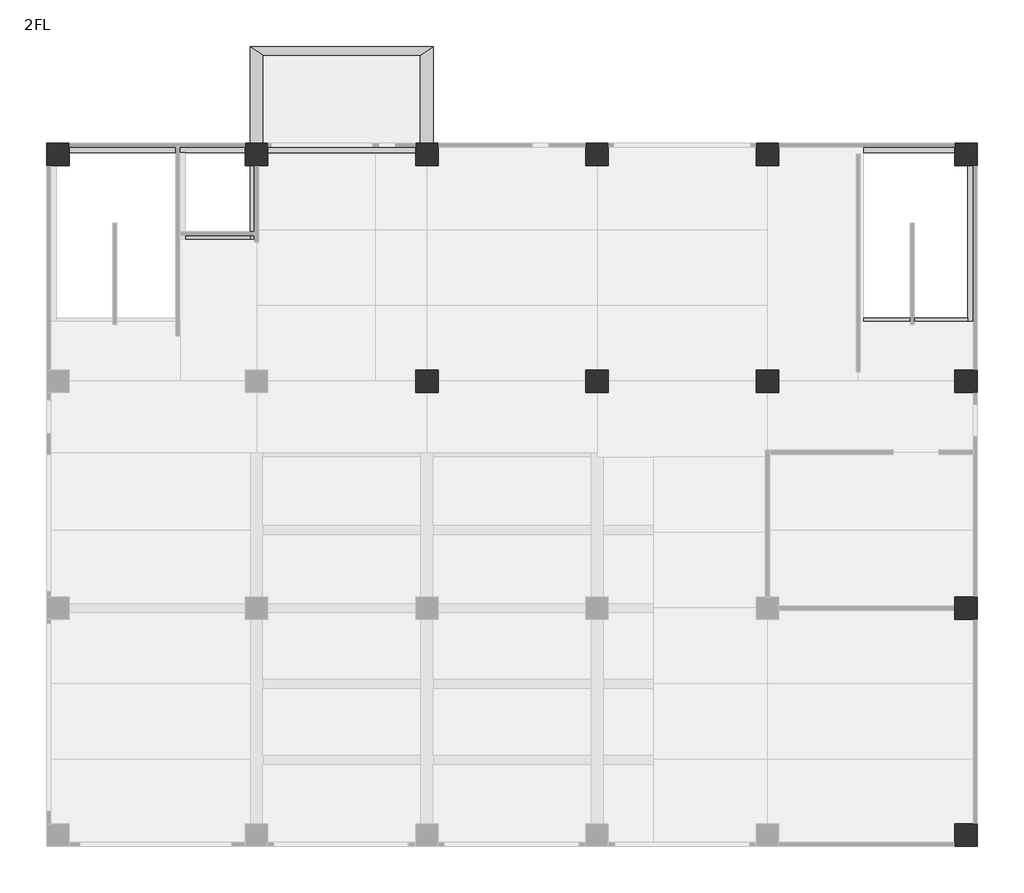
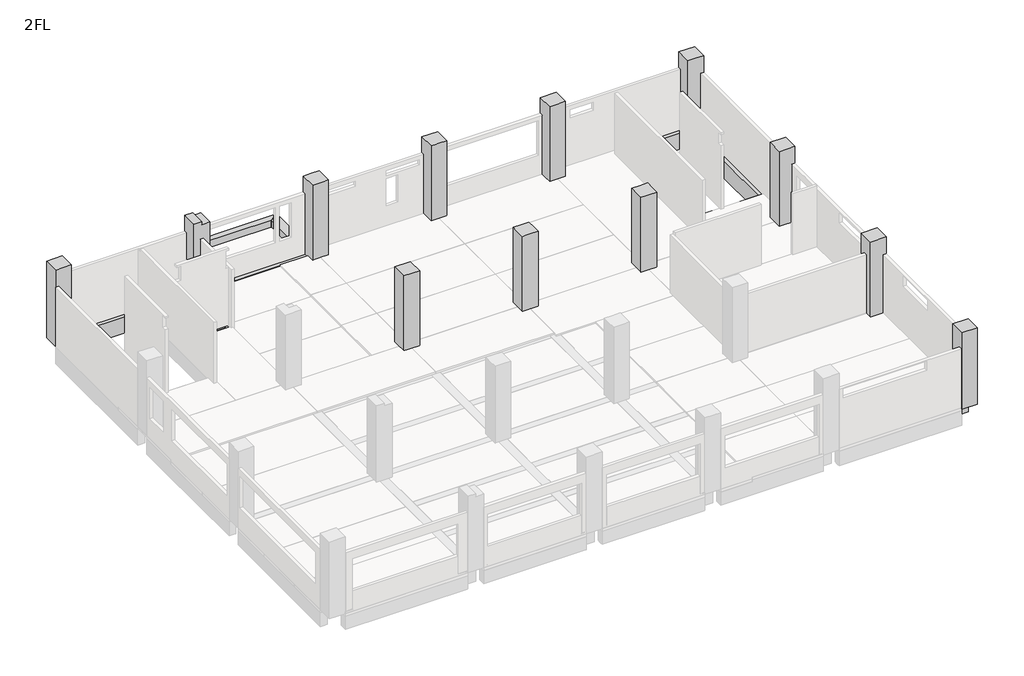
# One storey, part 4 of 4: 28 beams, 12 columns.
"""IFC4 building model written with IfcOpenShell, lengths in millimetres."""

from ifc_helpers import new_model, si_unit, origin, place, context, project, spatial, faceted_brep, element, save

model = new_model("IFC4")

# Units and contexts
model_context = context("Model", 3, world=origin())
ifc_project = project(units=[si_unit("LENGTHUNIT", "METRE", prefix="MILLI")], contexts=[model_context])

# Site, building, storey
site = spatial("IfcSite", under=ifc_project)
building = spatial("IfcBuilding", under=site)
storey = spatial("IfcBuildingStorey", under=building, Name="2FL", Elevation=4100.0)

# Beams
placement = place(None, origin())
element("IfcBeam", 1, ObjectType="RC_B : 2G1", at=placement, inside=storey, context=model_context, shape_type="Brep", body=[
    faceted_brep([(6600.0, 24400.0, 4000.0), (6600.0, 24400.0, 3150.0), (400.0, 24400.0, 3150.0), (400.0, 24400.0, 4000.0), (6600.0, 24250.0, 3150.0), (6600.0, 24050.0, 3150.0), (4294.0, 24050.0, 3150.0), (4144.0, 24050.0, 3150.0), (400.0, 24050.0, 3150.0), (400.0, 24250.0, 3150.0), (6600.0, 24050.0, 4000.0), (4494.0, 24050.0, 4000.0), (4144.0, 24050.0, 4000.0), (400.0, 24050.0, 4000.0), (6600.0, 24250.0, 4000.0), (400.0, 24250.0, 4000.0)], [[[0, 1, 2, 3]], [[1, 4, 5, 6, 7, 8, 9, 2]], [[5, 10, 11, 12, 13, 8, 7, 6]], [[10, 14, 0, 3, 15, 13, 12, 11]], [[1, 0, 14, 10, 5, 4]], [[3, 2, 9, 8, 13, 15]]]),
])
element("IfcBeam", 2, ObjectType="RC_B : 2G1", at=placement, inside=storey, context=model_context, shape_type="Brep", body=[
    faceted_brep([(7000.0, 24400.0, 3150.0), (7000.0, 24400.0, 3250.0), (7000.0, 24400.0, 4000.0), (7400.0, 24400.0, 4000.0), (12600.0, 24400.0, 4000.0), (12600.0, 24400.0, 3150.0), (7225.0, 24400.0, 3150.0), (7000.0, 24050.0, 3150.0), (12600.0, 24050.0, 3150.0), (7225.0, 24050.0, 3150.0), (7000.0, 24050.0, 4000.0), (12600.0, 24050.0, 4000.0), (12600.0, 24250.0, 4000.0)], [[[0, 1, 2, 3, 4, 5, 6]], [[7, 0, 6, 5, 8, 9]], [[10, 7, 9, 8, 11]], [[2, 10, 11, 12, 4, 3]], [[5, 4, 12, 11, 8]], [[2, 1, 0, 7, 10]]]),
])
element("IfcBeam", 3, ObjectType="RC_B : 2G1", at=placement, inside=storey, context=model_context, shape_type="Brep", body=[
    faceted_brep([(18600.0, 24400.0, 3940.0), (18600.0, 24400.0, 3150.0), (13400.0, 24400.0, 3150.0), (13400.0, 24400.0, 3940.0), (18600.0, 24250.0, 3150.0), (18600.0, 24050.0, 3150.0), (13400.0, 24050.0, 3150.0), (13400.0, 24250.0, 3150.0), (18600.0, 24050.0, 3940.0), (13400.0, 24050.0, 3940.0)], [[[0, 1, 2, 3]], [[1, 4, 5, 6, 7, 2]], [[5, 8, 9, 6]], [[5, 4, 1, 0, 8]], [[8, 0, 3, 9]], [[3, 2, 7, 6, 9]]]),
])
element("IfcBeam", 4, ObjectType="RC_B : 2G1", at=placement, inside=storey, context=model_context, shape_type="Brep", body=[
    faceted_brep([(24600.0, 24400.0, 3150.0), (19400.0, 24400.0, 3150.0), (19400.0, 24400.0, 3940.0), (24600.0, 24400.0, 3940.0), (24600.0, 24250.0, 3150.0), (24600.0, 24050.0, 3150.0), (19400.0, 24050.0, 3150.0), (19400.0, 24250.0, 3150.0), (24600.0, 24050.0, 3940.0), (19400.0, 24050.0, 3940.0)], [[[0, 1, 2, 3]], [[0, 4, 5, 6, 7, 1]], [[6, 5, 8, 9]], [[5, 4, 0, 3, 8]], [[1, 7, 6, 9, 2]], [[3, 2, 9, 8]]]),
])
element("IfcBeam", 5, ObjectType="RC_B : 2G1", at=placement, inside=storey, context=model_context, shape_type="Brep", body=[
    faceted_brep([(31600.0, 24400.0, 4000.0), (31600.0, 24400.0, 3150.0), (25400.0, 24400.0, 3150.0), (25400.0, 24400.0, 3940.0), (28374.0, 24400.0, 3940.0), (28374.0, 24400.0, 4000.0), (31600.0, 24250.0, 3150.0), (31600.0, 24050.0, 3150.0), (28275.0, 24050.0, 3150.0), (28275.0, 24250.0, 3150.0), (28275.0, 24325.0, 3150.0), (28125.0, 24325.0, 3150.0), (28125.0, 24250.0, 3150.0), (28125.0, 24050.0, 3150.0), (25400.0, 24050.0, 3150.0), (31600.0, 24050.0, 4000.0), (28374.0, 24050.0, 4000.0), (28374.0, 24050.0, 3940.0), (28024.0, 24050.0, 3940.0), (25400.0, 24050.0, 3940.0), (28125.0, 24050.0, 3250.0), (28275.0, 24050.0, 3250.0), (31600.0, 24250.0, 4000.0), (28374.0, 24250.0, 4000.0), (28125.0, 24325.0, 3250.0), (28275.0, 24325.0, 3250.0)], [[[0, 1, 2, 3, 4, 5]], [[1, 6, 7, 8, 9, 10, 11, 12, 13, 14, 2]], [[7, 15, 16, 17, 18, 19, 14, 13, 20, 21, 8]], [[15, 22, 0, 5, 23, 16]], [[1, 0, 22, 15, 7, 6]], [[24, 20, 13, 12, 11]], [[21, 25, 10, 9, 8]], [[20, 24, 25, 21]], [[2, 14, 19, 3]], [[17, 4, 3, 19, 18]], [[4, 17, 16, 23, 5]], [[25, 24, 11, 10]]]),
])
element("IfcBeam", 6, ObjectType="RC_B : 2G11", at=placement, inside=storey, context=model_context, shape_type="Brep", body=[
    faceted_brep([(32050.0, 7600.0, 3100.0), (32050.0, 400.0, 3100.0), (32050.0, 400.0, 3940.0), (32050.0, 2485.0, 3940.0), (32050.0, 2835.0, 3940.0), (32050.0, 5155.0, 3940.0), (32050.0, 5505.0, 3940.0), (32050.0, 7600.0, 3940.0), (32250.0, 7600.0, 3100.0), (32400.0, 7600.0, 3100.0), (32400.0, 400.0, 3100.0), (32250.0, 400.0, 3100.0), (32400.0, 7600.0, 3940.0), (32400.0, 5328.0, 3940.0), (32400.0, 2664.0, 3940.0), (32400.0, 400.0, 3940.0)], [[[0, 1, 2, 3, 4, 5, 6, 7]], [[0, 8, 9, 10, 11, 1]], [[10, 9, 12, 13, 14, 15]], [[9, 8, 0, 7, 12]], [[1, 11, 10, 15, 2]], [[2, 15, 14, 13, 12, 7, 6, 5, 4, 3]]]),
])
element("IfcBeam", 7, ObjectType="RC_B : 2G11", at=placement, inside=storey, context=model_context, shape_type="Brep", body=[
    faceted_brep([(32050.0, 8400.0, 3100.0), (32050.0, 8400.0, 3940.0), (32050.0, 10575.0, 3940.0), (32050.0, 10925.0, 3940.0), (32050.0, 11905.0, 3940.0), (32050.0, 11905.0, 3100.0), (32050.0, 15600.0, 3100.0), (32250.0, 15600.0, 3100.0), (32400.0, 15600.0, 3100.0), (32400.0, 8400.0, 3100.0), (32250.0, 8400.0, 3100.0), (32250.0, 11905.0, 3100.0), (32250.0, 12055.0, 3100.0), (32050.0, 12055.0, 3100.0), (32050.0, 13425.0, 3100.0), (32250.0, 13425.0, 3100.0), (32250.0, 13575.0, 3100.0), (32050.0, 13575.0, 3100.0), (32400.0, 15600.0, 3940.0), (32400.0, 13496.0, 3940.0), (32400.0, 10748.0, 3940.0), (32400.0, 8400.0, 3940.0), (32050.0, 15600.0, 3940.0), (32050.0, 13675.0, 3940.0), (32050.0, 13325.0, 3940.0), (32050.0, 12055.0, 3940.0), (32250.0, 12055.0, 3940.0), (32250.0, 11905.0, 3940.0), (32250.0, 13575.0, 3250.0), (32050.0, 13575.0, 3250.0), (32050.0, 13425.0, 3250.0), (32250.0, 13425.0, 3250.0)], [[[0, 1, 2, 3, 4, 5]], [[6, 7, 8, 9, 10, 0, 5, 11, 12, 13, 14, 15, 16, 17]], [[9, 8, 18, 19, 20, 21]], [[8, 7, 6, 22, 18]], [[0, 10, 9, 21, 1]], [[1, 21, 20, 19, 18, 22, 23, 24, 25, 26, 27, 4, 3, 2]], [[16, 28, 29, 17]], [[30, 31, 15, 14]], [[28, 31, 30, 29]], [[31, 28, 16, 15]], [[12, 26, 25, 13]], [[27, 11, 5, 4]], [[26, 12, 11, 27]], [[22, 6, 17, 29, 30, 14, 13, 25, 24, 23]]]),
])
element("IfcBeam", 8, ObjectType="RC_B : 2G11", at=placement, inside=storey, context=model_context, shape_type="Brep", body=[
    faceted_brep([(32050.0, 23600.0, 4000.0), (32050.0, 23600.0, 3100.0), (32050.0, 16400.0, 3100.0), (32050.0, 16400.0, 3940.0), (32050.0, 17975.0, 3940.0), (32050.0, 18100.0, 3940.0), (32050.0, 18100.0, 4000.0), (32050.0, 18225.0, 4000.0), (32250.0, 23600.0, 3100.0), (32400.0, 23600.0, 3100.0), (32400.0, 16400.0, 3100.0), (32250.0, 16400.0, 3100.0), (32400.0, 23600.0, 4000.0), (32400.0, 18100.0, 4000.0), (32400.0, 18100.0, 3940.0), (32400.0, 16400.0, 3940.0), (32250.0, 23600.0, 4000.0), (32250.0, 18100.0, 4000.0)], [[[0, 1, 2, 3, 4, 5, 6, 7]], [[1, 8, 9, 10, 11, 2]], [[9, 12, 13, 14, 15, 10]], [[12, 16, 0, 7, 6, 17, 13]], [[1, 0, 16, 12, 9, 8]], [[2, 11, 10, 15, 3]], [[14, 5, 4, 3, 15]], [[5, 14, 13, 17, 6]]]),
])
element("IfcBeam", 9, ObjectType="RC_B : 2G12", at=placement, inside=storey, context=model_context, shape_type="Brep", body=[
    faceted_brep([(6775.0, 23600.0, 4000.0), (6775.0, 23600.0, 3100.0), (6775.0, 21275.0, 3100.0), (6775.0, 21125.0, 3100.0), (6775.0, 16000.0, 3100.0), (6775.0, 16000.0, 3150.0), (6775.0, 16175.0, 3150.0), (6775.0, 16175.0, 3940.0), (6775.0, 21000.0, 3940.0), (6775.0, 21000.0, 4000.0), (6775.0, 21125.0, 4000.0), (6775.0, 21275.0, 4000.0), (6925.0, 23600.0, 3100.0), (7075.0, 23600.0, 3100.0), (7225.0, 23600.0, 3100.0), (7225.0, 16000.0, 3100.0), (7225.0, 23600.0, 3850.0), (7225.0, 21515.0, 3850.0), (7225.0, 21165.0, 3850.0), (7225.0, 18845.0, 3850.0), (7225.0, 18495.0, 3850.0), (7225.0, 16175.0, 3850.0), (7225.0, 16000.0, 3850.0), (7000.0, 21000.0, 4000.0), (7000.0, 21328.0, 4000.0), (7000.0, 23600.0, 4000.0), (6925.0, 23600.0, 4000.0), (7000.0, 23600.0, 3850.0), (7000.0, 16000.0, 3850.0), (7000.0, 16000.0, 3150.0), (7000.0, 16175.0, 3150.0), (7000.0, 16175.0, 3850.0), (7000.0, 16175.0, 3940.0), (7000.0, 21328.0, 3850.0), (7000.0, 18664.0, 3850.0), (7000.0, 16400.0, 3850.0), (7000.0, 21000.0, 3940.0), (7000.0, 16400.0, 3940.0), (6912.3, 21000.0, 3940.0)], [[[0, 1, 2, 3, 4, 5, 6, 7, 8, 9, 10, 11]], [[1, 12, 13, 14, 15, 4, 3, 2]], [[15, 14, 16, 17, 18, 19, 20, 21, 22]], [[0, 11, 10, 9, 23, 24, 25, 26]], [[14, 13, 12, 1, 0, 26, 25, 27, 16]], [[4, 15, 22, 28, 29, 5]], [[6, 30, 31, 32, 7]], [[30, 6, 5, 29]], [[30, 29, 28, 31]], [[28, 22, 21, 20, 19, 18, 17, 16, 27, 33, 34, 35, 31]], [[23, 36, 37, 32, 31, 35, 34, 33, 27, 25, 24]], [[36, 38, 8, 7, 32, 37]], [[8, 38, 36, 23, 9]]]),
])
element("IfcBeam", 10, ObjectType="RC_B : 2G12", at=placement, inside=storey, context=model_context, shape_type="Brep", body=[
    faceted_brep([(12775.0, 23600.0, 3100.0), (12775.0, 16000.0, 3100.0), (12775.0, 16000.0, 3150.0), (12775.0, 16175.0, 3150.0), (12775.0, 16175.0, 3940.0), (12775.0, 18495.0, 3940.0), (12775.0, 18845.0, 3940.0), (12775.0, 21165.0, 3940.0), (12775.0, 21515.0, 3940.0), (12775.0, 23600.0, 3940.0), (13225.0, 23600.0, 3100.0), (13225.0, 16000.0, 3100.0), (13225.0, 23600.0, 3940.0), (13225.0, 23600.0, 4000.0), (13225.0, 21515.0, 4000.0), (13225.0, 21165.0, 4000.0), (13225.0, 18845.0, 4000.0), (13225.0, 18495.0, 4000.0), (13225.0, 16400.0, 4000.0), (13225.0, 16175.0, 4000.0), (13225.0, 16000.0, 4000.0), (13225.0, 16000.0, 3940.0), (13000.0, 23600.0, 4000.0), (13000.0, 21328.0, 4000.0), (13000.0, 18664.0, 4000.0), (13000.0, 16400.0, 4000.0), (13000.0, 16000.0, 4000.0), (13000.0, 23600.0, 3940.0), (13000.0, 16000.0, 3940.0), (13000.0, 16000.0, 3150.0), (13000.0, 16175.0, 3150.0), (13000.0, 16175.0, 3940.0), (13000.0, 21328.0, 3940.0), (13000.0, 18664.0, 3940.0)], [[[0, 1, 2, 3, 4, 5, 6, 7, 8, 9]], [[0, 10, 11, 1]], [[10, 12, 13, 14, 15, 16, 17, 18, 19, 20, 21, 11]], [[20, 19, 18, 17, 16, 15, 14, 13, 22, 23, 24, 25, 26]], [[10, 0, 9, 27, 22, 13, 12]], [[1, 11, 21, 20, 26, 28, 29, 2]], [[3, 30, 31, 4]], [[30, 3, 2, 29]], [[30, 29, 28, 26, 25, 24, 23, 22, 27, 32, 33, 31]], [[31, 33, 32, 27, 9, 8, 7, 6, 5, 4]]]),
])
element("IfcBeam", 11, ObjectType="RC_B : 2G12", at=placement, inside=storey, context=model_context, shape_type="Brep", body=[
    faceted_brep([(18775.0, 23600.0, 4000.0), (18775.0, 23600.0, 3940.0), (18775.0, 23600.0, 3100.0), (18775.0, 16000.0, 3100.0), (18775.0, 16000.0, 3150.0), (18775.0, 16175.0, 3150.0), (18775.0, 16175.0, 4000.0), (18775.0, 16400.0, 4000.0), (18775.0, 18495.0, 4000.0), (18775.0, 18845.0, 4000.0), (18775.0, 21165.0, 4000.0), (18775.0, 21515.0, 4000.0), (19225.0, 23600.0, 3100.0), (19225.0, 16000.0, 3100.0), (19225.0, 23600.0, 3940.0), (19225.0, 21515.0, 3940.0), (19225.0, 21328.0, 3940.0), (19225.0, 21328.0, 4000.0), (19225.0, 18845.0, 4000.0), (19225.0, 18495.0, 4000.0), (19225.0, 16400.0, 4000.0), (19225.0, 16000.0, 4000.0), (19000.0, 16000.0, 4000.0), (19000.0, 21328.0, 4000.0), (19000.0, 23600.0, 4000.0), (19000.0, 16175.0, 4000.0), (19000.0, 23600.0, 3940.0), (19000.0, 16000.0, 3150.0), (19000.0, 16175.0, 3150.0), (19000.0, 21328.0, 3940.0)], [[[0, 1, 2, 3, 4, 5, 6, 7, 8, 9, 10, 11]], [[2, 12, 13, 3]], [[13, 12, 14, 15, 16, 17, 18, 19, 20, 21]], [[22, 21, 20, 19, 18, 17, 23, 24, 0, 11, 10, 9, 8, 7, 6, 25]], [[12, 2, 1, 0, 24, 26, 14]], [[3, 13, 21, 22, 27, 4]], [[28, 25, 6, 5]], [[28, 5, 4, 27]], [[25, 28, 27, 22]], [[26, 29, 16, 15, 14]], [[16, 29, 23, 17]], [[29, 26, 24, 23]]]),
])
element("IfcBeam", 12, ObjectType="RC_B : 2G12", at=placement, inside=storey, context=model_context, shape_type="Brep", body=[
    faceted_brep([(24775.0, 23600.0, 3100.0), (24775.0, 16000.0, 3100.0), (24775.0, 16000.0, 3150.0), (24775.0, 16175.0, 3150.0), (24775.0, 16175.0, 3940.0), (24775.0, 21165.0, 3940.0), (24775.0, 21515.0, 3940.0), (24775.0, 23600.0, 3940.0), (25225.0, 23600.0, 3100.0), (25225.0, 16075.0, 3100.0), (25075.0, 16075.0, 3100.0), (25075.0, 16000.0, 3100.0), (25225.0, 23600.0, 3940.0), (25225.0, 16175.0, 3940.0), (25225.0, 16000.0, 3940.0), (25225.0, 16000.0, 3150.0), (25225.0, 16075.0, 3150.0), (25000.0, 23600.0, 3940.0), (25075.0, 16000.0, 3150.0), (25000.0, 16000.0, 3940.0), (25000.0, 16000.0, 3150.0), (25000.0, 16175.0, 3150.0), (25000.0, 16175.0, 3940.0), (25075.0, 16075.0, 3150.0)], [[[0, 1, 2, 3, 4, 5, 6, 7]], [[0, 8, 9, 10, 11, 1]], [[8, 12, 13, 14, 15, 16, 9]], [[8, 0, 7, 17, 12]], [[2, 1, 11, 18, 15, 14, 19, 20]], [[3, 21, 22, 4]], [[21, 3, 2, 20]], [[21, 20, 19, 22]], [[4, 22, 19, 14, 13, 12, 17, 7, 6, 5]], [[16, 23, 10, 9]], [[10, 23, 18, 11]], [[23, 16, 15, 18]]]),
])
element("IfcBeam", 13, ObjectType="RC_B : 2G2", at=placement, inside=storey, context=model_context, shape_type="Brep", body=[
    faceted_brep([(12600.0, 16175.0, 3150.0), (7225.0, 16175.0, 3150.0), (7225.0, 16175.0, 3850.0), (11200.0, 16175.0, 3850.0), (11200.0, 16175.0, 3940.0), (12600.0, 16175.0, 3940.0), (12600.0, 15825.0, 3150.0), (7225.0, 15825.0, 3150.0), (12600.0, 15825.0, 3940.0), (7225.0, 15825.0, 3940.0), (12600.0, 16000.0, 3940.0), (7225.0, 16000.0, 3940.0), (7225.0, 16000.0, 3850.0), (11200.0, 16000.0, 3940.0), (7400.0, 16000.0, 3940.0), (7400.0, 16000.0, 3850.0), (11200.0, 16000.0, 3850.0)], [[[0, 1, 2, 3, 4, 5]], [[0, 6, 7, 1]], [[7, 6, 8, 9]], [[6, 0, 5, 10, 8]], [[1, 7, 9, 11, 12, 2]], [[9, 8, 10, 5, 4, 13, 14, 11]], [[12, 15, 16, 3, 2]], [[16, 15, 12, 11, 14, 13]], [[16, 13, 4, 3]]]),
])
element("IfcBeam", 14, ObjectType="RC_B : 2G2", at=placement, inside=storey, context=model_context, shape_type="Brep", body=[
    faceted_brep([(18600.0, 16175.0, 4000.0), (18600.0, 16175.0, 3940.0), (18600.0, 16175.0, 3150.0), (13225.0, 16175.0, 3150.0), (13225.0, 16175.0, 4000.0), (13400.0, 16175.0, 4000.0), (18600.0, 15825.0, 3150.0), (13225.0, 15825.0, 3150.0), (18600.0, 15825.0, 3940.0), (13225.0, 15825.0, 3940.0), (13225.0, 16000.0, 4000.0), (13400.0, 16000.0, 4000.0), (18600.0, 16000.0, 4000.0), (18600.0, 16000.0, 3940.0), (13225.0, 16000.0, 3940.0), (13400.0, 16000.0, 3940.0)], [[[0, 1, 2, 3, 4, 5]], [[2, 6, 7, 3]], [[7, 6, 8, 9]], [[0, 5, 4, 10, 11, 12]], [[2, 1, 0, 12, 13, 8, 6]], [[4, 3, 7, 9, 14, 10]], [[13, 15, 14, 9, 8]], [[14, 15, 13, 12, 11, 10]]]),
])
element("IfcBeam", 15, ObjectType="RC_B : 2G2", at=placement, inside=storey, context=model_context, shape_type="Brep", body=[
    faceted_brep([(24600.0, 16175.0, 3150.0), (19225.0, 16175.0, 3150.0), (19225.0, 16175.0, 3940.0), (24600.0, 16175.0, 3940.0), (24600.0, 15825.0, 3150.0), (19225.0, 15825.0, 3150.0), (24600.0, 15825.0, 3940.0), (19225.0, 15825.0, 3940.0), (24600.0, 16000.0, 3940.0)], [[[0, 1, 2, 3]], [[0, 4, 5, 1]], [[5, 4, 6, 7]], [[4, 0, 3, 8, 6]], [[1, 5, 7, 2]], [[7, 6, 8, 3, 2]]]),
])
element("IfcBeam", 16, ObjectType="RC_B : 2G2", at=placement, inside=storey, context=model_context, shape_type="Brep", body=[
    faceted_brep([(25225.0, 16175.0, 3150.0), (25225.0, 16175.0, 3940.0), (28024.0, 16175.0, 3940.0), (28374.0, 16175.0, 3940.0), (31600.0, 16175.0, 3940.0), (31600.0, 16175.0, 3150.0), (30175.0, 16175.0, 3150.0), (30025.0, 16175.0, 3150.0), (28275.0, 16175.0, 3150.0), (28275.0, 16175.0, 3250.0), (28125.0, 16175.0, 3250.0), (28125.0, 16175.0, 3150.0), (31600.0, 15825.0, 3150.0), (25225.0, 15825.0, 3150.0), (25225.0, 16000.0, 3150.0), (25225.0, 16075.0, 3150.0), (28125.0, 16075.0, 3150.0), (28275.0, 16075.0, 3150.0), (31600.0, 15825.0, 3940.0), (25225.0, 15825.0, 3940.0), (31600.0, 16000.0, 3940.0), (25225.0, 16000.0, 3940.0), (28125.0, 16075.0, 3250.0), (28275.0, 16075.0, 3250.0)], [[[0, 1, 2, 3, 4, 5, 6, 7, 8, 9, 10, 11]], [[5, 12, 13, 14, 15, 0, 11, 16, 17, 8, 7, 6]], [[13, 12, 18, 19]], [[12, 5, 4, 20, 18]], [[0, 15, 14, 13, 19, 21, 1]], [[19, 18, 20, 4, 3, 2, 1, 21]], [[10, 22, 16, 11]], [[17, 23, 9, 8]], [[23, 22, 10, 9]], [[22, 23, 17, 16]]]),
])
element("IfcBeam", 17, ObjectType="RC_B : B1", at=placement, inside=storey, context=model_context, shape_type="Brep", body=[
    faceted_brep([(7225.0, 18845.0, 3250.0), (7225.0, 18845.0, 3850.0), (11200.0, 18845.0, 3850.0), (11200.0, 18845.0, 3940.0), (12775.0, 18845.0, 3940.0), (12775.0, 18845.0, 3250.0), (7225.0, 18495.0, 3250.0), (12775.0, 18495.0, 3250.0), (12775.0, 18495.0, 3940.0), (11200.0, 18495.0, 3940.0), (11200.0, 18495.0, 3850.0), (7225.0, 18495.0, 3850.0), (11200.0, 18664.0, 3940.0), (11200.0, 18664.0, 3850.0)], [[[0, 1, 2, 3, 4, 5]], [[6, 0, 5, 7]], [[7, 8, 9, 10, 11, 6]], [[0, 6, 11, 1]], [[7, 5, 4, 8]], [[9, 8, 4, 3, 12]], [[2, 1, 11, 10, 13]], [[10, 9, 12, 3, 2, 13]]]),
])
element("IfcBeam", 18, ObjectType="RC_B : B1", at=placement, inside=storey, context=model_context, shape_type="Brep", body=[
    faceted_brep([(7225.0, 21515.0, 3250.0), (7225.0, 21515.0, 3850.0), (11200.0, 21515.0, 3850.0), (11200.0, 21515.0, 3940.0), (12775.0, 21515.0, 3940.0), (12775.0, 21515.0, 3250.0), (7225.0, 21165.0, 3250.0), (12775.0, 21165.0, 3250.0), (7225.0, 21165.0, 3850.0), (12775.0, 21165.0, 3940.0), (11200.0, 21165.0, 3940.0), (11200.0, 21165.0, 3850.0), (11200.0, 21328.0, 3850.0), (11200.0, 21328.0, 3940.0)], [[[0, 1, 2, 3, 4, 5]], [[6, 0, 5, 7]], [[8, 6, 7, 9, 10, 11]], [[0, 6, 8, 1]], [[7, 5, 4, 9]], [[8, 11, 12, 2, 1]], [[2, 12, 11, 10, 13, 3]], [[4, 3, 13, 10, 9]]]),
])
element("IfcBeam", 19, ObjectType="RC_B : B1", at=placement, inside=storey, context=model_context, shape_type="Brep", body=[
    faceted_brep([(13225.0, 18845.0, 3250.0), (13225.0, 18845.0, 3940.0), (13225.0, 18845.0, 4000.0), (18775.0, 18845.0, 4000.0), (18775.0, 18845.0, 3940.0), (18775.0, 18845.0, 3250.0), (13225.0, 18495.0, 3250.0), (18775.0, 18495.0, 3250.0), (13225.0, 18495.0, 4000.0), (13225.0, 18495.0, 3940.0), (18775.0, 18495.0, 3940.0), (18775.0, 18495.0, 4000.0)], [[[0, 1, 2, 3, 4, 5]], [[6, 0, 5, 7]], [[8, 9, 6, 7, 10, 11]], [[2, 8, 11, 3]], [[2, 1, 0, 6, 9, 8]], [[5, 4, 3, 11, 10, 7]]]),
])
element("IfcBeam", 20, ObjectType="RC_B : B1", at=placement, inside=storey, context=model_context, shape_type="Brep", body=[
    faceted_brep([(13225.0, 21515.0, 3250.0), (13225.0, 21515.0, 3940.0), (13225.0, 21515.0, 4000.0), (18775.0, 21515.0, 4000.0), (18775.0, 21515.0, 3940.0), (18775.0, 21515.0, 3250.0), (13225.0, 21165.0, 3250.0), (18775.0, 21165.0, 3250.0), (13225.0, 21165.0, 4000.0), (13225.0, 21165.0, 3940.0), (18775.0, 21165.0, 3940.0), (18775.0, 21165.0, 4000.0)], [[[0, 1, 2, 3, 4, 5]], [[6, 0, 5, 7]], [[8, 9, 6, 7, 10, 11]], [[2, 8, 11, 3]], [[2, 1, 0, 6, 9, 8]], [[5, 4, 3, 11, 10, 7]]]),
])
element("IfcBeam", 21, ObjectType="RC_B : B1", at=placement, inside=storey, context=model_context, shape_type="Brep", body=[
    faceted_brep([(19225.0, 18845.0, 3250.0), (19225.0, 18845.0, 3940.0), (19225.0, 18845.0, 4000.0), (24775.0, 18845.0, 4000.0), (24775.0, 18845.0, 3250.0), (19225.0, 18495.0, 3250.0), (24775.0, 18495.0, 3250.0), (19225.0, 18495.0, 4000.0), (19225.0, 18495.0, 3940.0), (24775.0, 18495.0, 4000.0)], [[[0, 1, 2, 3, 4]], [[5, 0, 4, 6]], [[7, 8, 5, 6, 9]], [[2, 7, 9, 3]], [[2, 1, 0, 5, 8, 7]], [[4, 3, 9, 6]]]),
])
element("IfcBeam", 22, ObjectType="RC_B : B1", at=placement, inside=storey, context=model_context, shape_type="Brep", body=[
    faceted_brep([(24775.0, 21515.0, 3250.0), (19225.0, 21515.0, 3250.0), (19225.0, 21515.0, 3940.0), (24775.0, 21515.0, 3940.0), (19225.0, 21165.0, 3250.0), (24775.0, 21165.0, 3250.0), (24775.0, 21165.0, 3940.0), (19225.0, 21165.0, 3940.0), (19225.0, 21328.0, 3940.0)], [[[0, 1, 2, 3]], [[4, 1, 0, 5]], [[4, 5, 6, 7]], [[1, 4, 7, 8, 2]], [[5, 0, 3, 6]], [[3, 2, 8, 7, 6]]]),
])
element("IfcBeam", 23, ObjectType="RC_B : B3", at=placement, inside=storey, context=model_context, shape_type="Brep", body=[
    faceted_brep([(6775.0, 21125.0, 4000.0), (6775.0, 21125.0, 3400.0), (4494.0, 21125.0, 3400.0), (4494.0, 21125.0, 4000.0), (6775.0, 20875.0, 3400.0), (4494.0, 20875.0, 3400.0), (6775.0, 20875.0, 4000.0), (4494.0, 20875.0, 4000.0), (4494.0, 20875.0, 3940.0), (6775.0, 21000.0, 4000.0)], [[[0, 1, 2, 3]], [[1, 4, 5, 2]], [[4, 6, 7, 8, 5]], [[6, 9, 0, 3, 7]], [[1, 0, 9, 6, 4]], [[3, 2, 5, 8, 7]]]),
])
element("IfcBeam", 24, ObjectType="RC_B : B3", at=placement, inside=storey, context=model_context, shape_type="Brep", body=[
    faceted_brep([(28374.0, 18225.0, 3400.0), (28374.0, 18225.0, 4000.0), (30025.0, 18225.0, 4000.0), (30175.0, 18225.0, 4000.0), (32050.0, 18225.0, 4000.0), (32050.0, 18225.0, 3400.0), (30175.0, 18225.0, 3400.0), (30025.0, 18225.0, 3400.0), (28374.0, 17975.0, 3400.0), (32050.0, 17975.0, 3400.0), (30175.0, 17975.0, 3400.0), (30025.0, 17975.0, 3400.0), (32050.0, 17975.0, 3940.0), (28374.0, 17975.0, 3940.0), (28374.0, 18100.0, 4000.0), (32050.0, 18100.0, 4000.0), (28374.0, 18100.0, 3940.0), (32050.0, 18100.0, 3940.0)], [[[0, 1, 2, 3, 4, 5, 6, 7]], [[8, 0, 7, 6, 5, 9, 10, 11]], [[8, 11, 10, 9, 12, 13]], [[4, 3, 2, 1, 14, 15]], [[1, 0, 8, 13, 16, 14]], [[5, 4, 15, 17, 12, 9]], [[17, 16, 13, 12]], [[16, 17, 15, 14]]]),
])
element("IfcBeam", 25, ObjectType="RC_B : B4", at=placement, inside=storey, context=model_context, shape_type="Brep", body=[
    faceted_brep([(28024.0, 24050.0, 3250.0), (28024.0, 16175.0, 3250.0), (28024.0, 16175.0, 3940.0), (28024.0, 24050.0, 3940.0), (28374.0, 16175.0, 3250.0), (28275.0, 16175.0, 3250.0), (28125.0, 16175.0, 3250.0), (28125.0, 24050.0, 3250.0), (28275.0, 24050.0, 3250.0), (28374.0, 24050.0, 3250.0), (28374.0, 24050.0, 3940.0), (28374.0, 18100.0, 3940.0), (28374.0, 17975.0, 3940.0), (28374.0, 16175.0, 3940.0)], [[[0, 1, 2, 3]], [[4, 5, 6, 1, 0, 7, 8, 9]], [[4, 9, 10, 11, 12, 13]], [[1, 6, 5, 4, 13, 2]], [[9, 8, 7, 0, 3, 10]], [[3, 2, 13, 12, 11, 10]]]),
])
element("IfcBeam", 26, ObjectType="RC_B : B5", at=placement, inside=storey, context=model_context, shape_type="Brep", body=[
    faceted_brep([(6775.0, 27800.0, 3100.0), (6775.0, 27800.0, 3800.0), (13225.0, 27800.0, 3800.0), (13225.0, 27800.0, 3100.0), (7225.0, 27500.0, 3100.0), (12775.0, 27500.0, 3100.0), (7225.0, 27500.0, 3800.0), (7225.0, 27500.0, 3432.3529412), (7225.0, 27500.0, 3282.3529412), (12775.0, 27500.0, 3282.3529412), (12775.0, 27500.0, 3432.3529412), (12775.0, 27500.0, 3800.0)], [[[0, 1, 2, 3]], [[4, 0, 3, 5]], [[6, 7, 8, 4, 5, 9, 10, 11]], [[2, 1, 6, 11]], [[5, 3, 2, 11, 10, 9]], [[1, 0, 4, 8, 7, 6]]]),
])
element("IfcBeam", 27, ObjectType="RC_CB : CG1", at=placement, inside=storey, context=model_context, shape_type="Brep", body=[
    faceted_brep([(13225.0, 24000.0, 3100.0), (13225.0, 27800.0, 3100.0), (13225.0, 27800.0, 3800.0), (13225.0, 24400.0, 3800.0), (13225.0, 24400.0, 3150.0), (13225.0, 24050.0, 3150.0), (13225.0, 24050.0, 3800.0), (13225.0, 24000.0, 3800.0), (12775.0, 24050.0, 3800.0), (12775.0, 24000.0, 3800.0), (12775.0, 24400.0, 3100.0), (12775.0, 27500.0, 3282.3529412), (12775.0, 27500.0, 3100.0), (12775.0, 24000.0, 3100.0), (12775.0, 24400.0, 3800.0), (12775.0, 24400.0, 3250.0), (13000.0, 24400.0, 3250.0), (13000.0, 24400.0, 3150.0), (12775.0, 24050.0, 3150.0), (12775.0, 27500.0, 3800.0), (13000.0, 27650.0, 3441.1764706), (13000.0, 27650.0, 3291.1764706), (13000.0, 24400.0, 3100.0), (12775.0, 27500.0, 3432.3529412), (12775.0, 24400.0, 3150.0)], [[[0, 1, 2, 3, 4, 5, 6, 7]], [[7, 6, 8, 9]], [[10, 11, 12]], [[1, 0, 13, 10, 12]], [[4, 3, 14, 15, 16, 17]], [[6, 5, 18, 8]], [[3, 2, 19, 14]], [[16, 20, 21, 22, 17]], [[20, 16, 15, 23]], [[10, 22, 21, 11]], [[5, 4, 17, 24, 18]], [[17, 22, 10, 24]], [[8, 18, 24, 10, 13, 9]], [[14, 19, 23, 15]], [[0, 7, 9, 13]], [[1, 12, 11, 21, 20, 23, 19, 2]]]),
])
element("IfcBeam", 28, ObjectType="RC_CB : CG1", at=placement, inside=storey, context=model_context, shape_type="Brep", body=[
    faceted_brep([(7225.0, 27500.0, 3800.0), (7225.0, 24400.0, 3800.0), (7225.0, 24400.0, 3250.0), (7225.0, 27500.0, 3432.3529412), (6775.0, 24050.0, 3800.0), (6775.0, 24000.0, 3800.0), (7225.0, 24000.0, 3800.0), (7225.0, 24050.0, 3800.0), (6775.0, 27800.0, 3100.0), (6775.0, 24000.0, 3100.0), (6775.0, 24050.0, 3150.0), (6775.0, 24400.0, 3150.0), (6775.0, 24400.0, 3800.0), (6775.0, 27800.0, 3800.0), (7225.0, 27500.0, 3100.0), (7225.0, 24400.0, 3100.0), (7225.0, 24000.0, 3100.0), (7000.0, 24400.0, 3150.0), (7000.0, 24400.0, 3250.0), (7225.0, 24050.0, 3150.0), (7000.0, 24050.0, 3150.0), (7000.0, 27650.0, 3441.1764706), (7000.0, 24400.0, 3100.0), (7000.0, 27650.0, 3291.1764706), (7225.0, 27500.0, 3282.3529412), (7225.0, 24400.0, 3150.0)], [[[0, 1, 2, 3]], [[4, 5, 6, 7]], [[8, 9, 5, 4, 10, 11, 12, 13]], [[9, 8, 14, 15, 16]], [[12, 11, 17, 18, 2, 1]], [[7, 19, 20, 10, 4]], [[13, 12, 1, 0]], [[21, 18, 17, 22, 23]], [[18, 21, 3, 2]], [[23, 22, 15, 24]], [[19, 25, 17, 11, 10, 20]], [[22, 17, 25, 15]], [[19, 7, 6, 16, 15, 25]], [[24, 15, 14]], [[16, 6, 5, 9]], [[14, 8, 13, 0, 3, 21, 23, 24]]]),
])

# Columns
element("IfcColumn", 29, ObjectType="RC_C_B : 2C1", at=placement, inside=storey, context=model_context, shape_type="Brep", body=[
    faceted_brep([(32400.0, 8400.0, 4000.0), (32400.0, 7600.0, 4000.0), (31600.0, 7600.0, 4000.0), (31600.0, 8400.0, 4000.0), (32400.0, 8400.0, 8100.0), (32400.0, 7600.0, 8100.0), (32400.0, 7600.0, 7950.0), (32400.0, 7600.0, 7200.0), (32400.0, 7600.0, 4090.0), (32400.0, 8400.0, 4090.0), (32400.0, 8400.0, 7200.0), (32400.0, 8400.0, 8040.0), (31600.0, 7600.0, 8100.0), (31600.0, 7600.0, 7950.0), (31600.0, 7600.0, 4090.0), (31600.0, 8000.0, 8100.0), (31600.0, 8400.0, 8100.0), (31600.0, 8400.0, 8040.0), (31600.0, 8400.0, 4090.0)], [[[0, 1, 2, 3]], [[4, 5, 6, 7, 8, 1, 0, 9, 10, 11]], [[5, 12, 13, 14, 2, 1, 8, 7, 6]], [[12, 15, 16, 17, 18, 3, 2, 14, 13]], [[16, 4, 11, 10, 9, 0, 3, 18, 17]], [[4, 16, 15, 12, 5]]]),
])
element("IfcColumn", 30, ObjectType="RC_C_B : 2C1", at=placement, inside=storey, context=model_context, shape_type="Brep", body=[
    faceted_brep([(13400.0, 16400.0, 4000.0), (13400.0, 15600.0, 4000.0), (13225.0, 15600.0, 4000.0), (13000.0, 15600.0, 4000.0), (12775.0, 15600.0, 4000.0), (12600.0, 15600.0, 4000.0), (12600.0, 16000.0, 4000.0), (13000.0, 16000.0, 4000.0), (13000.0, 16400.0, 4000.0), (13400.0, 16400.0, 8100.0), (13400.0, 15600.0, 8100.0), (13400.0, 15600.0, 8040.0), (13400.0, 15600.0, 4090.0), (12600.0, 15600.0, 8100.0), (12600.0, 15600.0, 8040.0), (12600.0, 15600.0, 4090.0), (12600.0, 16400.0, 8100.0), (12600.0, 16400.0, 8040.0), (12600.0, 16400.0, 4090.0), (12600.0, 16000.0, 4090.0), (13000.0, 16400.0, 4090.0), (13000.0, 16000.0, 4090.0)], [[[0, 1, 2, 3, 4, 5, 6, 7, 8]], [[1, 0, 9, 10, 11, 12]], [[5, 4, 3, 2, 1, 12, 11, 10, 13, 14, 15]], [[5, 15, 14, 13, 16, 17, 18, 19, 6]], [[9, 0, 8, 20, 18, 17, 16]], [[10, 9, 16, 13]], [[21, 19, 18, 20]], [[19, 21, 7, 6]], [[21, 20, 8, 7]]]),
])
element("IfcColumn", 31, ObjectType="RC_C_B : 2C1", at=placement, inside=storey, context=model_context, shape_type="Brep", body=[
    faceted_brep([(19400.0, 16400.0, 4000.0), (19400.0, 15600.0, 4000.0), (19225.0, 15600.0, 4000.0), (19000.0, 15600.0, 4000.0), (18775.0, 15600.0, 4000.0), (18600.0, 15600.0, 4000.0), (18600.0, 16000.0, 4000.0), (18600.0, 16175.0, 4000.0), (18600.0, 16400.0, 4000.0), (18775.0, 16400.0, 4000.0), (19000.0, 16400.0, 4000.0), (19225.0, 16400.0, 4000.0), (19400.0, 16400.0, 8100.0), (19400.0, 16000.0, 8100.0), (19400.0, 15600.0, 8100.0), (19400.0, 15600.0, 8040.0), (19400.0, 15600.0, 4090.0), (19400.0, 16400.0, 4090.0), (19400.0, 16400.0, 7950.0), (19000.0, 15600.0, 8100.0), (18775.0, 15600.0, 8100.0), (18600.0, 15600.0, 8100.0), (18600.0, 15600.0, 8040.0), (18600.0, 15600.0, 4090.0), (18600.0, 16000.0, 8100.0), (18600.0, 16175.0, 8100.0), (18600.0, 16400.0, 8100.0), (18600.0, 16400.0, 8040.0), (18600.0, 16400.0, 4090.0), (19000.0, 16400.0, 8100.0)], [[[0, 1, 2, 3, 4, 5, 6, 7, 8, 9, 10, 11]], [[12, 13, 14, 15, 16, 1, 0, 17, 18]], [[14, 19, 20, 21, 22, 23, 5, 4, 3, 2, 1, 16, 15]], [[21, 24, 25, 26, 27, 28, 8, 7, 6, 5, 23, 22]], [[26, 29, 12, 18, 17, 0, 11, 10, 9, 8, 28, 27]], [[12, 29, 26, 25, 24, 21, 20, 19, 14, 13]]]),
])
element("IfcColumn", 32, ObjectType="RC_C_B : 2C1", at=placement, inside=storey, context=model_context, shape_type="Brep", body=[
    faceted_brep([(25400.0, 16400.0, 4000.0), (25400.0, 15600.0, 4000.0), (24600.0, 15600.0, 4000.0), (24600.0, 16400.0, 4000.0), (25400.0, 16400.0, 8100.0), (25400.0, 16000.0, 8100.0), (25400.0, 15600.0, 8100.0), (25400.0, 15600.0, 8040.0), (25400.0, 15600.0, 4090.0), (25400.0, 16400.0, 4090.0), (25400.0, 16400.0, 7950.0), (25000.0, 15600.0, 8100.0), (24775.0, 15600.0, 8100.0), (24600.0, 15600.0, 8100.0), (24600.0, 15600.0, 8040.0), (24600.0, 15600.0, 4090.0), (24600.0, 16000.0, 8100.0), (24600.0, 16400.0, 8100.0), (24600.0, 16400.0, 7950.0), (24600.0, 16400.0, 4090.0), (25000.0, 16400.0, 8100.0)], [[[0, 1, 2, 3]], [[4, 5, 6, 7, 8, 1, 0, 9, 10]], [[6, 11, 12, 13, 14, 15, 2, 1, 8, 7]], [[13, 16, 17, 18, 19, 3, 2, 15, 14]], [[17, 20, 4, 10, 9, 0, 3, 19, 18]], [[4, 20, 17, 16, 13, 12, 11, 6, 5]]]),
])
element("IfcColumn", 33, ObjectType="RC_C_B : 2C1", at=placement, inside=storey, context=model_context, shape_type="Brep", body=[
    faceted_brep([(32400.0, 16400.0, 4000.0), (32400.0, 15600.0, 4000.0), (31600.0, 15600.0, 4000.0), (31600.0, 16400.0, 4000.0), (32400.0, 16400.0, 8100.0), (32400.0, 15600.0, 8100.0), (32400.0, 15600.0, 8040.0), (32400.0, 15600.0, 7200.0), (32400.0, 15600.0, 4090.0), (32400.0, 16400.0, 4090.0), (32400.0, 16400.0, 7200.0), (32400.0, 16400.0, 8040.0), (31600.0, 15600.0, 8100.0), (31600.0, 15600.0, 8040.0), (31600.0, 15600.0, 4090.0), (31600.0, 16400.0, 8100.0), (31600.0, 16400.0, 8040.0), (31600.0, 16400.0, 4090.0)], [[[0, 1, 2, 3]], [[4, 5, 6, 7, 8, 1, 0, 9, 10, 11]], [[5, 12, 13, 14, 2, 1, 8, 7, 6]], [[12, 15, 16, 17, 3, 2, 14, 13]], [[15, 4, 11, 10, 9, 0, 3, 17, 16]], [[4, 15, 12, 5]]]),
])
element("IfcColumn", 34, ObjectType="RC_C_B : 2C1", at=placement, inside=storey, context=model_context, shape_type="Brep", body=[
    faceted_brep([(7400.0, 24400.0, 4000.0), (7400.0, 24250.0, 4000.0), (7400.0, 24000.0, 4000.0), (7400.0, 23600.0, 4000.0), (7075.0, 23600.0, 4000.0), (7000.0, 23600.0, 4000.0), (6925.0, 23600.0, 4000.0), (6600.0, 23600.0, 4000.0), (6600.0, 24250.0, 4000.0), (6600.0, 24400.0, 4000.0), (7000.0, 24400.0, 4000.0), (7400.0, 24400.0, 7250.0), (7400.0, 24400.0, 7950.0), (7400.0, 24050.0, 7950.0), (7400.0, 23600.0, 7950.0), (7225.0, 23600.0, 7950.0), (7000.0, 23600.0, 7950.0), (7000.0, 23600.0, 8100.0), (6775.0, 23600.0, 8100.0), (6600.0, 23600.0, 8100.0), (6600.0, 24050.0, 8100.0), (6600.0, 24400.0, 8100.0), (6600.0, 24400.0, 7250.0), (7000.0, 24400.0, 8100.0), (7000.0, 24400.0, 7950.0)], [[[0, 1, 2, 3, 4, 5, 6, 7, 8, 9, 10]], [[3, 2, 1, 0, 11, 12, 13, 14]], [[7, 6, 5, 4, 3, 14, 15, 16, 17, 18, 19]], [[9, 8, 7, 19, 20, 21, 22]], [[0, 10, 9, 22, 21, 23, 24, 12, 11]], [[21, 20, 19, 18, 17, 23]], [[24, 16, 15, 14, 13, 12]], [[16, 24, 23, 17]]]),
])
element("IfcColumn", 35, ObjectType="RC_C_B : 2C1", at=placement, inside=storey, context=model_context, shape_type="Brep", body=[
    faceted_brep([(12600.0, 23600.0, 4000.0), (12600.0, 24250.0, 4000.0), (12600.0, 24400.0, 4000.0), (13000.0, 24400.0, 4000.0), (13000.0, 23600.0, 4000.0), (13400.0, 24400.0, 8100.0), (13400.0, 23600.0, 8100.0), (13400.0, 23600.0, 8040.0), (13400.0, 23600.0, 4090.0), (13400.0, 24250.0, 4090.0), (13400.0, 24400.0, 4090.0), (13400.0, 24400.0, 7250.0), (13400.0, 24400.0, 8040.0), (13225.0, 23600.0, 8100.0), (13000.0, 23600.0, 8100.0), (12600.0, 23600.0, 8100.0), (12600.0, 23600.0, 8040.0), (12600.0, 23600.0, 4090.0), (13000.0, 23600.0, 4090.0), (12600.0, 24400.0, 8100.0), (12600.0, 24400.0, 8040.0), (12600.0, 24400.0, 7250.0), (13000.0, 24400.0, 8100.0), (13000.0, 24400.0, 4090.0)], [[[0, 1, 2, 3, 4]], [[5, 6, 7, 8, 9, 10, 11, 12]], [[6, 13, 14, 15, 16, 17, 0, 4, 18, 8, 7]], [[2, 1, 0, 17, 16, 15, 19, 20, 21]], [[2, 21, 20, 19, 22, 5, 12, 11, 10, 23, 3]], [[6, 5, 22, 19, 15, 14, 13]], [[18, 23, 10, 9, 8]], [[23, 18, 4, 3]]]),
])
element("IfcColumn", 36, ObjectType="RC_C_B : 2C1", at=placement, inside=storey, context=model_context, shape_type="Brep", body=[
    faceted_brep([(19400.0, 24400.0, 8100.0), (19400.0, 23600.0, 8100.0), (19400.0, 23600.0, 7950.0), (19400.0, 23600.0, 4090.0), (19400.0, 24250.0, 4090.0), (19400.0, 24400.0, 4090.0), (19400.0, 24400.0, 7250.0), (19400.0, 24400.0, 7950.0), (19000.0, 23600.0, 8100.0), (18775.0, 23600.0, 8100.0), (18600.0, 23600.0, 8100.0), (18600.0, 23600.0, 8040.0), (18600.0, 23600.0, 4090.0), (18600.0, 24400.0, 8100.0), (18600.0, 24400.0, 8040.0), (18600.0, 24400.0, 7250.0), (18600.0, 24400.0, 4090.0), (18600.0, 24250.0, 4090.0), (19000.0, 24400.0, 8100.0), (19000.0, 24400.0, 4090.0)], [[[0, 1, 2, 3, 4, 5, 6, 7]], [[1, 8, 9, 10, 11, 12, 3, 2]], [[10, 13, 14, 15, 16, 17, 12, 11]], [[13, 18, 0, 7, 6, 5, 19, 16, 15, 14]], [[1, 0, 18, 13, 10, 9, 8]], [[12, 17, 16, 19, 5, 4, 3]]]),
])
element("IfcColumn", 37, ObjectType="RC_C_B : 2C1", at=placement, inside=storey, context=model_context, shape_type="Brep", body=[
    faceted_brep([(25400.0, 24400.0, 8100.0), (25400.0, 23600.0, 8100.0), (25400.0, 23600.0, 7950.0), (25400.0, 23600.0, 4090.0), (25400.0, 24250.0, 4090.0), (25400.0, 24400.0, 4090.0), (25400.0, 24400.0, 7250.0), (25400.0, 24400.0, 7950.0), (25000.0, 23600.0, 8100.0), (24600.0, 23600.0, 8100.0), (24600.0, 23600.0, 7950.0), (24600.0, 23600.0, 4090.0), (24600.0, 24400.0, 8100.0), (24600.0, 24400.0, 7950.0), (24600.0, 24400.0, 7250.0), (24600.0, 24400.0, 4090.0), (24600.0, 24250.0, 4090.0), (25000.0, 24400.0, 4090.0)], [[[0, 1, 2, 3, 4, 5, 6, 7]], [[1, 8, 9, 10, 11, 3, 2]], [[9, 12, 13, 14, 15, 16, 11, 10]], [[12, 0, 7, 6, 5, 17, 15, 14, 13]], [[1, 0, 12, 9, 8]], [[11, 16, 15, 17, 5, 4, 3]]]),
])
element("IfcColumn", 38, ObjectType="RC_C_B : 2C2", at=placement, inside=storey, context=model_context, shape_type="Brep", body=[
    faceted_brep([(32400.0, 400.0, 4000.0), (32400.0, -400.0, 4000.0), (31600.0, -400.0, 4000.0), (31600.0, 400.0, 4000.0), (32400.0, 400.0, 8100.0), (32400.0, -400.0, 8100.0), (32400.0, 400.0, 4090.0), (32400.0, 400.0, 7200.0), (32400.0, 400.0, 7950.0), (31600.0, -400.0, 8100.0), (31600.0, -400.0, 7950.0), (31600.0, -400.0, 7250.0), (31600.0, -400.0, 4090.0), (31600.0, 400.0, 8100.0), (31600.0, 400.0, 7950.0), (31600.0, 400.0, 4090.0)], [[[0, 1, 2, 3]], [[4, 5, 1, 0, 6, 7, 8]], [[5, 9, 10, 11, 12, 2, 1]], [[9, 13, 14, 15, 3, 2, 12, 11, 10]], [[13, 4, 8, 7, 6, 0, 3, 15, 14]], [[4, 13, 9, 5]]]),
])
element("IfcColumn", 39, ObjectType="RC_C_B : 2C2", at=placement, inside=storey, context=model_context, shape_type="Brep", body=[
    faceted_brep([(400.0, 24400.0, 4000.0), (400.0, 24250.0, 4000.0), (400.0, 23600.0, 4000.0), (-250.0, 23600.0, 4000.0), (-400.0, 23600.0, 4000.0), (-400.0, 24400.0, 4000.0), (400.0, 24400.0, 8100.0), (400.0, 24050.0, 8100.0), (400.0, 23600.0, 8100.0), (400.0, 24400.0, 7250.0), (-50.0, 23600.0, 8100.0), (-400.0, 23600.0, 8100.0), (-400.0, 23600.0, 7200.0), (-400.0, 24400.0, 8100.0)], [[[0, 1, 2, 3, 4, 5]], [[6, 7, 8, 2, 1, 0, 9]], [[8, 10, 11, 12, 4, 3, 2]], [[11, 13, 5, 4, 12]], [[13, 6, 9, 0, 5]], [[6, 13, 11, 10, 8, 7]]]),
])
element("IfcColumn", 40, ObjectType="RC_C_B : 2C2", at=placement, inside=storey, context=model_context, shape_type="Brep", body=[
    faceted_brep([(32400.0, 24400.0, 4000.0), (32400.0, 23600.0, 4000.0), (32250.0, 23600.0, 4000.0), (31600.0, 23600.0, 4000.0), (31600.0, 24250.0, 4000.0), (31600.0, 24400.0, 4000.0), (32400.0, 24400.0, 8100.0), (32400.0, 23600.0, 8100.0), (32400.0, 23600.0, 7200.0), (32050.0, 23600.0, 8100.0), (31600.0, 23600.0, 8100.0), (31600.0, 24050.0, 8100.0), (31600.0, 24400.0, 8100.0), (31600.0, 24400.0, 7250.0)], [[[0, 1, 2, 3, 4, 5]], [[6, 7, 8, 1, 0]], [[7, 9, 10, 3, 2, 1, 8]], [[10, 11, 12, 13, 5, 4, 3]], [[12, 6, 0, 5, 13]], [[6, 12, 11, 10, 9, 7]]]),
])

save(model, "model.ifc")
